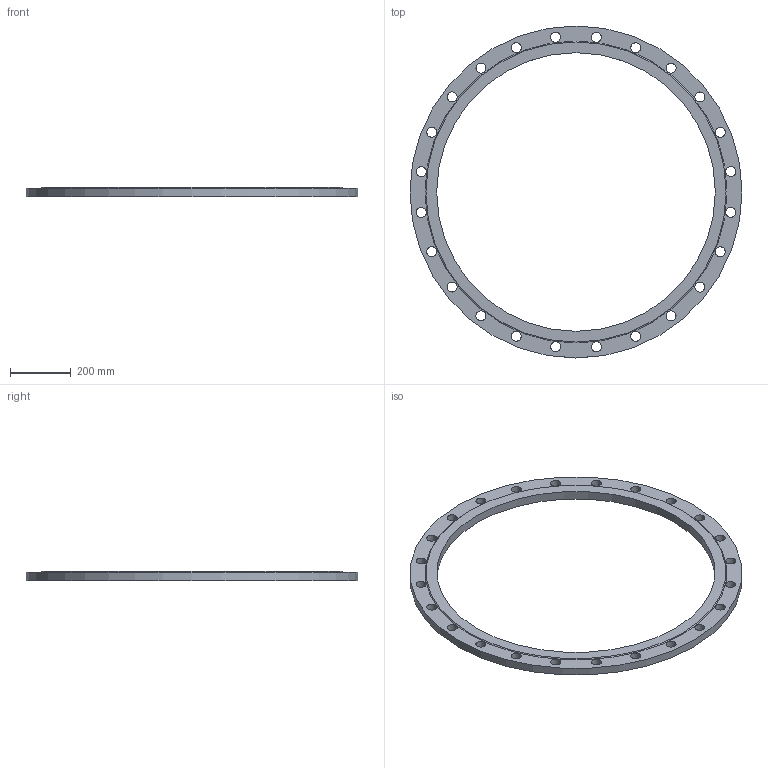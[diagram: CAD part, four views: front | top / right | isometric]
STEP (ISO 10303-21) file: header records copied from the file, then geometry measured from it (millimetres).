
FILE_DESCRIPTION(/* description */ (''),/* implementation_level */ '2;1');
FILE_NAME(/* name */ 'C:\Users\D\Documents\Inventor\HP\JIS\フランジ\JIS 5k sop rf\jis5k-sop-rf-900.stp',/* time_stamp */ '2024-09-12T17:02:24+09:00',/* author */ ('D'),/* organization */ (''),/* preprocessor_version */ 'ST-DEVELOPER v18',/* originating_system */ 'Autodesk Inventor 2020',/* authorisation */ '');
FILE_SCHEMA (('AUTOMOTIVE_DESIGN { 1 0 10303 214 3 1 1 }'));
Length unit declared in the file: millimetre
Products named in the file (1): jis5k-sop-rf-10
Bounding box: 1095 x 1095 x 30 mm (x, y, z)
Volume: 7287813 mm3; surface area: 767741 mm2
Topology: 1 solids, 1 shells, 30 faces, 86 edges, 59 vertices
Faces by surface type: cylinder 26, plane 3, torus 1
Full cylindrical faces by diameter (mm): 33 x24, 919 x1, 1095 x1
Entity records: 1171 total; most frequent: DIRECTION 208, CARTESIAN_POINT 176, ORIENTED_EDGE 172, AXIS2_PLACEMENT_3D 91, EDGE_CURVE 86, EDGE_LOOP 81, CIRCLE 60, VERTEX_POINT 59
